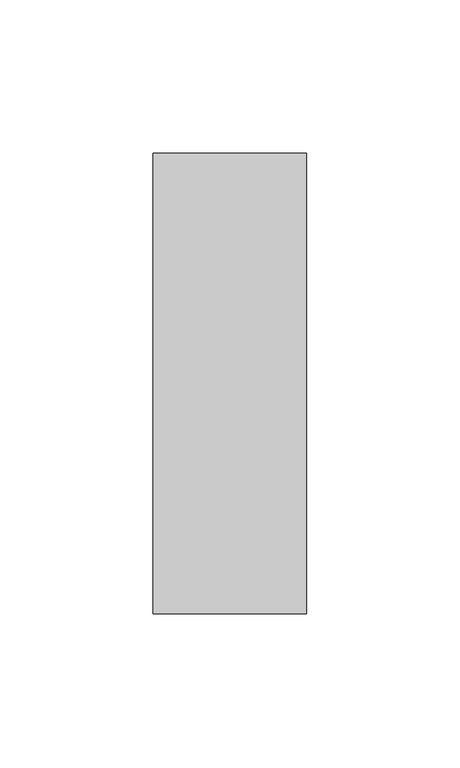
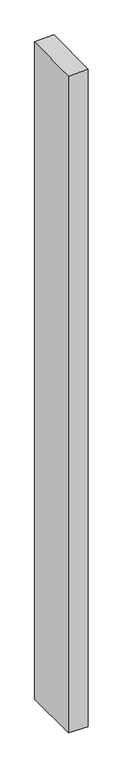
"""IFC4 building model written with IfcOpenShell, lengths in millimetres: member geometry, Прямоугольный импост : 50 x 150 мм."""

from ifc_helpers import new_model, si_unit, origin, place, context, project, spatial, faceted_brep, source, transform, mapped, element, save


def member_89cd5a6b(model_context):
    return source(origin(), model_context, "Body", "Brep", [
        faceted_brep([(-25.0, 75.0, 0.3664045), (25.0, 75.0, 1.6607907), (25.0, 75.0, -1784.7036545), (-25.0, 75.0, -1783.5394246), (-25.0, -75.0, -1.6607907), (-25.0, -75.0, -1783.6525247), (25.0, -75.0, -0.3664045), (25.0, -75.0, -1784.8167546)], [[[0, 1, 2, 3]], [[4, 0, 3, 5]], [[6, 4, 5, 7]], [[1, 6, 7, 2]], [[1, 0, 4, 6]], [[2, 7, 5, 3]]]),
    ])


if __name__ == "__main__":
    model = new_model("IFC4")
    model_context = context("Model", 3, world=origin())
    ifc_project = project(units=[si_unit("LENGTHUNIT", "METRE", prefix="MILLI")], contexts=[model_context])
    site = spatial("IfcSite", under=ifc_project)
    building = spatial("IfcBuilding", under=site)
    placement = place(None, origin())
    member_shape = member_89cd5a6b(model_context)
    element("IfcMember", 1, ObjectType="Прямоугольный импост : 50 x 150 мм", at=placement, inside=building, context=model_context, shape_type="MappedRepresentation", body=[
        mapped(member_shape, transform((0.0, 0.0, 0.0), x_axis=(1.0, 0.0, 0.0), y_axis=(0.0, 1.0, 0.0), z_axis=(0.0, 0.0, 1.0))),
    ])
    save(model, "model.ifc")
